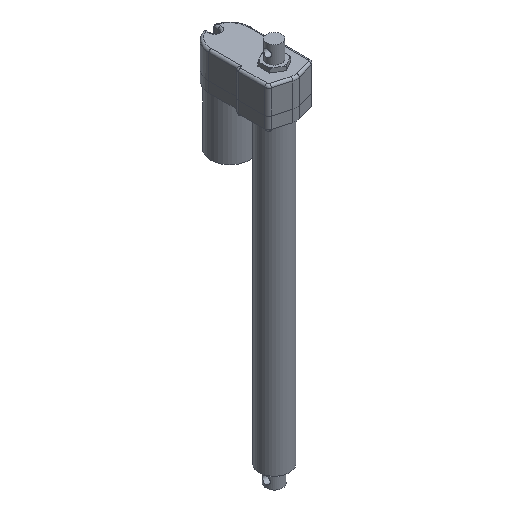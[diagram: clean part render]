
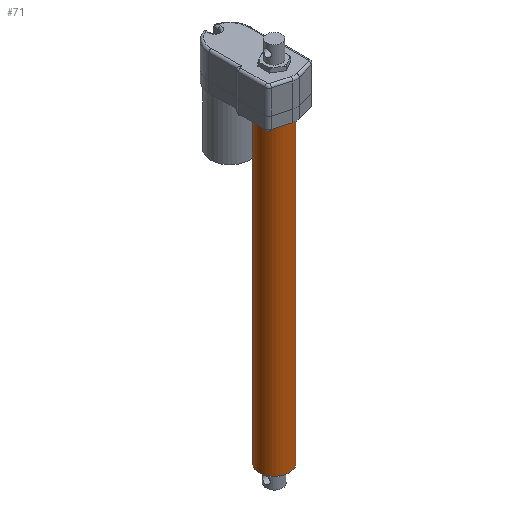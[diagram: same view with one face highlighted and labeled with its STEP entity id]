
A CAD part, isometric view. The second image highlights one B-rep face of the part: STEP entity #71.
In plain terms, the highlighted cylindrical face has radius 25.5 mm (diameter 51 mm), a full revolution.
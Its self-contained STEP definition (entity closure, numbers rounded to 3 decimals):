
#71 = ADVANCED_FACE ( 'NONE', ( #1754, #1753 ), #1756, .T. ) ;
#313 = CIRCLE ( 'NONE', #1302, 25.5 ) ;
#785 = AXIS2_PLACEMENT_3D ( 'NONE', #2302, #2303, #2267 ) ;
#909 = AXIS2_PLACEMENT_3D ( 'NONE', #4249, #4257, #4258 ) ;
#1302 = AXIS2_PLACEMENT_3D ( 'NONE', #4679, #4682, #4683 ) ;
#1753 = FACE_OUTER_BOUND ( 'NONE', #3344, .T. ) ;
#1754 = FACE_OUTER_BOUND ( 'NONE', #3001, .T. ) ;
#1756 = CYLINDRICAL_SURFACE ( 'NONE', #785, 25.5 ) ;
#2267 = DIRECTION ( 'NONE',  ( 1., 0., 0. ) ) ;
#2302 = CARTESIAN_POINT ( 'NONE',  ( 0., 0., -72.125 ) ) ;
#2303 = DIRECTION ( 'NONE',  ( 0., 0., 1. ) ) ;
#2519 = CIRCLE ( 'NONE', #909, 25.5 ) ;
#2828 = ORIENTED_EDGE ( 'NONE', *, *, #3126, .F. ) ;
#2830 = ORIENTED_EDGE ( 'NONE', *, *, #3220, .F. ) ;
#3001 = EDGE_LOOP ( 'NONE', ( #2828 ) ) ;
#3126 = EDGE_CURVE ( 'NONE', #4981, #4981, #2519, .T. ) ;
#3220 = EDGE_CURVE ( 'NONE', #5043, #5043, #313, .T. ) ;
#3344 = EDGE_LOOP ( 'NONE', ( #2830 ) ) ;
#4249 = CARTESIAN_POINT ( 'NONE',  ( 0., 0., 0. ) ) ;
#4257 = DIRECTION ( 'NONE',  ( 0., 0., -1. ) ) ;
#4258 = DIRECTION ( 'NONE',  ( 1., 0., 0. ) ) ;
#4679 = CARTESIAN_POINT ( 'NONE',  ( 0., 0., 515.3 ) ) ;
#4682 = DIRECTION ( 'NONE',  ( 0., 0., 1. ) ) ;
#4683 = DIRECTION ( 'NONE',  ( 1., 0., 0. ) ) ;
#4981 = VERTEX_POINT ( 'NONE', #4982 ) ;
#4982 = CARTESIAN_POINT ( 'NONE',  ( 25.5, 0., 0. ) ) ;
#5043 = VERTEX_POINT ( 'NONE', #5044 ) ;
#5044 = CARTESIAN_POINT ( 'NONE',  ( 25.5, 0., 515.3 ) ) ;
